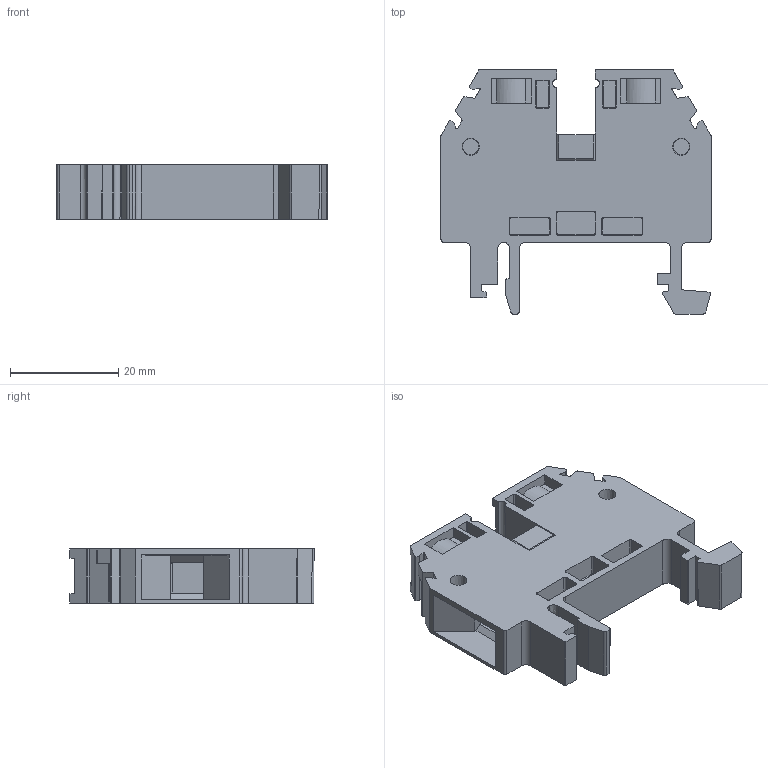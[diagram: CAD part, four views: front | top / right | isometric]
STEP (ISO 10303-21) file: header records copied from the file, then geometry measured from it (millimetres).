
FILE_DESCRIPTION(/* description */ ('Unknown'),/* implementation_level */ '2;1');
FILE_NAME(/* name */ 'RSA 10A',/* time_stamp */ '2021-03-05T13:22:48+01:00',/* author */ ('Unknown'),/* organization */ ('Unknown'),/* preprocessor_version */ 'ST-DEVELOPER v16.7',/* originating_system */ 'Solid Edge',/* authorisation */ 'Unknown');
FILE_SCHEMA (('AUTOMOTIVE_DESIGN {1 0 10303 214 3 1 1}'));
Length unit declared in the file: millimetre
Products named in the file (1): RSA 10A
Bounding box: 50 x 45.2 x 10 mm (x, y, z)
Volume: 12042.4 mm3; surface area: 8060.2 mm2
Topology: 1 solids, 2 shells, 394 faces, 1081 edges, 724 vertices
Faces by surface type: plane 250, cylinder 119, cone 14, torus 8, bspline 3
Full cylindrical faces by diameter (mm): 2.85 x1, 4 x2, 5.9 x2
Entity records: 15229 total; most frequent: CARTESIAN_POINT 2500, ORIENTED_EDGE 2096, DIRECTION 1997, EDGE_CURVE 1048, LINE 721, VECTOR 721, VERTEX_POINT 712, AXIS2_PLACEMENT_3D 638
